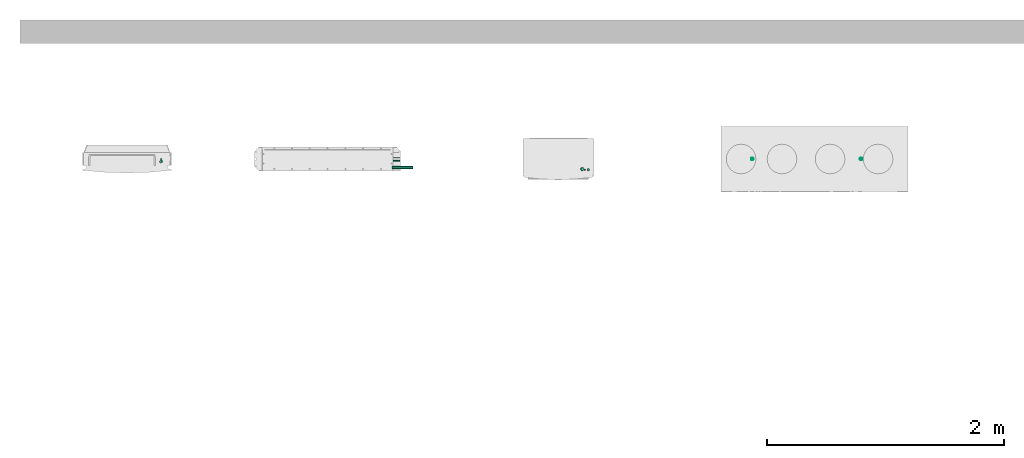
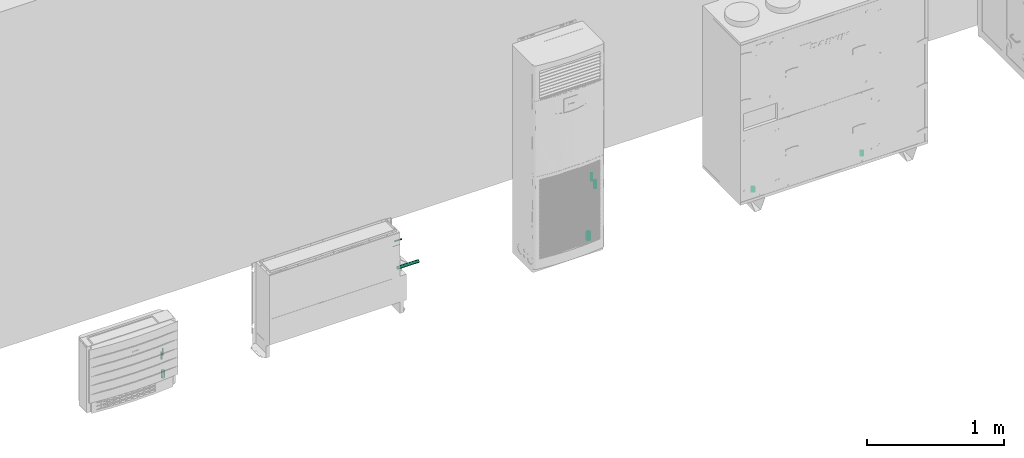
# One storey, part 2 of 3: 4 energy conversion devices.
"""IFC2X3 building model written with IfcOpenShell, lengths in millimetres."""

from ifc_helpers import new_model, entity, si_unit, converted_unit, derived_unit, direction, frame, frame_2d, origin, origin_2d_with_axis, place, context, subcontext, project, spatial, circle, extrude, source, transform, mapped, material, type_object, type_shapes, element, save


model = new_model("IFC2X3")

# Units and contexts
model_context = context("Model", 3, precision=0.01, world=origin(), true_north=direction((6.12303176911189e-17, 1.0)))
body_context = subcontext(model_context, "Body", "Model", "MODEL_VIEW")
ifc_project = project(units=[si_unit("LENGTHUNIT", "METRE", prefix="MILLI"), si_unit("AREAUNIT", "SQUARE_METRE"), si_unit("VOLUMEUNIT", "CUBIC_METRE"), converted_unit("PLANEANGLEUNIT", "DEGREE", entity("IfcRatioMeasure", 0.0174532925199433), si_unit("PLANEANGLEUNIT", "RADIAN"), dimensions=[0, 0, 0, 0, 0, 0, 0]), si_unit("MASSUNIT", "GRAM", prefix="KILO"), derived_unit("MASSDENSITYUNIT", [(si_unit("MASSUNIT", "GRAM", prefix="KILO"), 1), (si_unit("LENGTHUNIT", "METRE"), -3)]), si_unit("TIMEUNIT", "SECOND"), si_unit("FREQUENCYUNIT", "HERTZ"), si_unit("THERMODYNAMICTEMPERATUREUNIT", "DEGREE_CELSIUS"), derived_unit("THERMALTRANSMITTANCEUNIT", [(si_unit("MASSUNIT", "GRAM", prefix="KILO"), 1), (si_unit("THERMODYNAMICTEMPERATUREUNIT", "KELVIN"), -1), (si_unit("TIMEUNIT", "SECOND"), -3)]), derived_unit("VOLUMETRICFLOWRATEUNIT", [(si_unit("LENGTHUNIT", "METRE"), 3), (si_unit("TIMEUNIT", "SECOND"), -1)]), si_unit("ELECTRICCURRENTUNIT", "AMPERE"), si_unit("ELECTRICVOLTAGEUNIT", "VOLT"), si_unit("POWERUNIT", "WATT"), si_unit("FORCEUNIT", "NEWTON", prefix="KILO"), si_unit("ILLUMINANCEUNIT", "LUX"), si_unit("LUMINOUSFLUXUNIT", "LUMEN"), si_unit("LUMINOUSINTENSITYUNIT", "CANDELA"), derived_unit("USERDEFINED", [(si_unit("MASSUNIT", "GRAM", prefix="KILO"), -1), (si_unit("LENGTHUNIT", "METRE"), -2), (si_unit("TIMEUNIT", "SECOND"), 3), (si_unit("LUMINOUSFLUXUNIT", "LUMEN"), 1)]), derived_unit("LINEARVELOCITYUNIT", [(si_unit("LENGTHUNIT", "METRE"), 1), (si_unit("TIMEUNIT", "SECOND"), -1)]), si_unit("PRESSUREUNIT", "PASCAL"), derived_unit("USERDEFINED", [(si_unit("LENGTHUNIT", "METRE"), -2), (si_unit("MASSUNIT", "GRAM", prefix="KILO"), 1), (si_unit("TIMEUNIT", "SECOND"), -2)])], contexts=[model_context])

# Site, building, storey
site_placement = place(None, origin())
site = spatial("IfcSite", under=ifc_project, at=site_placement, Name="Default", CompositionType="ELEMENT")
building_placement = place(site_placement, origin())
building = spatial("IfcBuilding", under=site, at=building_placement, CompositionType="ELEMENT")
storey_placement = place(building_placement, origin())
storey = spatial("IfcBuildingStorey", under=building, at=storey_placement, Name="Level 1", CompositionType="ELEMENT", Elevation=0.0)

# Energy conversion devices
ifc_material = material(Name="RSen_x_rgb 255 255 255 T00 pure white_gen")
unitary_equipment_type_1 = type_object("IfcUnitaryEquipmentType", Name="atb03rasnadbt00 - air handling unit - right_daikin_lxwxh 1580x550x1550 mm", PredefinedType="AIRHANDLER", material=ifc_material)
shared_shape_1 = source(origin(), body_context, "Body", "SweptSolid", [
    extrude(circle(Radius=10.65, at=frame_2d((-7.01967022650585e-16, -6.76791955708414e-14), x_axis=(1.0, 0.0))), frame((-524.0, 0.0, -30.0), z_axis=(1.74532925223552e-05, 0.0, 1.0), x_axis=(0.0, -1.0, 0.0)), (0.0, 0.0, 1.0), 29.999999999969),
    extrude(circle(Radius=10.65, at=frame_2d((6.56792469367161e-16, -6.76791955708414e-14), x_axis=(1.0, 0.0))), frame((394.0, 0.0, -30.0), z_axis=(1.74532925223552e-05, 0.0, 1.0), x_axis=(0.0, -1.0, 0.0)), (0.0, 0.0, 1.0), 29.999999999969),
])
type_shapes(unitary_equipment_type_1, [shared_shape_1])
energy_conversion_device_1_placement = place(storey_placement, frame((8643.58651373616, -28017.8656639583, 0.0)))
element("IfcEnergyConversionDevice", 1, at=energy_conversion_device_1_placement, inside=storey, type_object=unitary_equipment_type_1, material=ifc_material, Name="RSen_57_ME_FB_air handling unit - modular - t_daikin:atb03rasnadbt00 - air handling unit - right_daikin_lxwxh 1580x550x1550 mm", ObjectType="atb03rasnadbt00 - air handling unit - right_daikin_lxwxh 1580x550x1550 mm", context=body_context, shape_type="MappedRepresentation", body=[
    mapped(shared_shape_1, transform((0.0, 0.0, 0.0), scale=1.0)),
])
unitary_equipment_type_2 = type_object("IfcUnitaryEquipmentType", Name="ava125amve - floor standing unit_daikin_lxwxh 600x350x1850 mm", PredefinedType="AIRCONDITIONINGUNIT", material=ifc_material)
shared_shape_2 = source(origin(), body_context, "Body", "SweptSolid", [
    extrude(circle(Radius=13.0, at=frame_2d((5.53161498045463e-30, -6.76791955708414e-14), x_axis=(1.0, 0.0))), frame((14.5952722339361, 15.5452722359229, 0.000226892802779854), z_axis=(1.74532925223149e-05, 0.0, 1.0), x_axis=(0.0, -1.0, 0.0)), (0.0, 0.0, 1.0), 59.999999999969),
    extrude(circle(Radius=4.76, at=frame_2d((4.79568397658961e-29, -3.38395977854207e-14), x_axis=(1.0, 0.0))), frame((37.5952723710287, 9.54527223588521, 521.000226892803), z_axis=(1.74532925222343e-05, 0.0, 1.0), x_axis=(0.0, -1.0, 0.0)), (0.0, 0.0, 1.0), 59.9999999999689),
    extrude(circle(Radius=7.95, at=frame_2d((2.76580749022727e-30, -3.38395977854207e-14), x_axis=(1.0, 0.0))), frame((67.5952722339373, 9.54527223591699, 446.000226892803), z_axis=(1.74532925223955e-05, 0.0, 1.0), x_axis=(0.0, -1.0, 0.0)), (0.0, 0.0, 1.0), 59.9999999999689),
])
type_shapes(unitary_equipment_type_2, [shared_shape_2])
energy_conversion_device_2_placement = place(storey_placement, frame((6668.78309031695, -28118.4109361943, 94.9997731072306)))
element("IfcEnergyConversionDevice", 2, at=energy_conversion_device_2_placement, inside=storey, type_object=unitary_equipment_type_2, material=ifc_material, Name="RSen_55_ME_FB_indoor unit - sky air - cassette-wall-floor_daikin:ava125amve - floor standing unit_daikin_lxwxh 600x350x1850 mm", ObjectType="ava125amve - floor standing unit_daikin_lxwxh 600x350x1850 mm", context=body_context, shape_type="MappedRepresentation", body=[
    mapped(shared_shape_2, transform((0.0, 0.0, 0.0), scale=1.0)),
])
unitary_equipment_type_3 = type_object("IfcUnitaryEquipmentType", Name="fna60a2veb9 - concealed floor standing unit_daikin_lxwxh 1190x200x720 mm", PredefinedType="AIRCONDITIONINGUNIT", material=ifc_material)
shared_shape_3 = source(origin(), body_context, "Body", "SweptSolid", [
    extrude(circle(Radius=13.0, at=frame_2d((-3.73709921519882e-28, -2.53796983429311e-14), x_axis=(1.0, 0.0))), frame((0.0, 14.595272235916, 14.5952722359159), z_axis=(1.0, 0.0, 0.0), x_axis=(0.0, 0.0, -1.0)), (0.0, 0.0, 1.0), 179.999999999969),
    extrude(circle(Radius=3.175, at=frame_2d((-6.22849869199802e-29, -4.22994972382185e-15), x_axis=(1.0, 0.0))), frame((10.0000001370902, 95.5952722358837, 151.595272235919), z_axis=(1.0, 0.0, 0.0), x_axis=(0.0, 0.0, -1.0)), (0.0, 0.0, 1.0), 59.999999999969),
    extrude(circle(Radius=6.35, at=frame_2d((-1.24569973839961e-28, -8.45989944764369e-15), x_axis=(1.0, 0.0))), frame((10.0, 71.5952722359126, 214.595272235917), z_axis=(1.0, 0.0, 0.0), x_axis=(0.0, 0.0, -1.0)), (0.0, 0.0, 1.0), 59.999999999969),
])
type_shapes(unitary_equipment_type_3, [shared_shape_3])
energy_conversion_device_3_placement = place(storey_placement, frame((5078.58651373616, -28103.4609361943, 376.904727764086)))
element("IfcEnergyConversionDevice", 3, at=energy_conversion_device_3_placement, inside=storey, type_object=unitary_equipment_type_3, material=ifc_material, Name="RSen_55_ME_FB_indoor unit - sky air - concealed ceiling-floor_daikin:fna60a2veb9 - concealed floor standing unit_daikin_lxwxh 1190x200x720 mm", ObjectType="fna60a2veb9 - concealed floor standing unit_daikin_lxwxh 1190x200x720 mm", context=body_context, shape_type="MappedRepresentation", body=[
    mapped(shared_shape_3, transform((0.0, 0.0, 0.0), scale=1.0)),
])
unitary_equipment_type_4 = type_object("IfcUnitaryEquipmentType", Name="fvxm50a3v1b9 - floor standing unit_daikin_lxwxh 750x238x600 mm", PredefinedType="SPLITSYSTEM", material=ifc_material)
shared_shape_4 = source(origin(), body_context, "Body", "SweptSolid", [
    extrude(circle(Radius=13.0, at=frame_2d((-1.47386243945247e-29, -3.38395977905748e-14), x_axis=(1.0, 0.0))), frame((14.5952722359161, 14.5952722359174, 0.0), z_axis=(0.0, 0.0, 1.0), x_axis=(0.0, -1.0, 0.0)), (0.0, 0.0, 1.0), 59.999999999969),
    extrude(circle(Radius=6.35, at=frame_2d((2.64371857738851e-16, -3.38395977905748e-14), x_axis=(1.0, 0.0))), frame((14.595272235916, 35.5952722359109, 150.0), z_axis=(0.0, 0.0, 1.0), x_axis=(0.0, -1.0, 0.0)), (0.0, 0.0, 1.0), 59.999999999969),
    extrude(circle(Radius=3.175, at=origin_2d_with_axis()), frame((14.595272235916, 18.5952722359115, 192.0), z_axis=(0.0, 0.0, 1.0), x_axis=(0.0, -1.0, 0.0)), (0.0, 0.0, 1.0), 59.999999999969),
])
type_shapes(unitary_equipment_type_4, [shared_shape_4])
energy_conversion_device_4_placement = place(storey_placement, frame((3116.99124150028, -28054.4609361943, 71.0)))
element("IfcEnergyConversionDevice", 4, at=energy_conversion_device_4_placement, inside=storey, type_object=unitary_equipment_type_4, material=ifc_material, Name="RSen_55_ME_FB_indoor unit - split_daikin:fvxm50a3v1b9 - floor standing unit_daikin_lxwxh 750x238x600 mm", ObjectType="fvxm50a3v1b9 - floor standing unit_daikin_lxwxh 750x238x600 mm", context=body_context, shape_type="MappedRepresentation", body=[
    mapped(shared_shape_4, transform((0.0, 0.0, 0.0), scale=1.0)),
])

save(model, "model.ifc")
